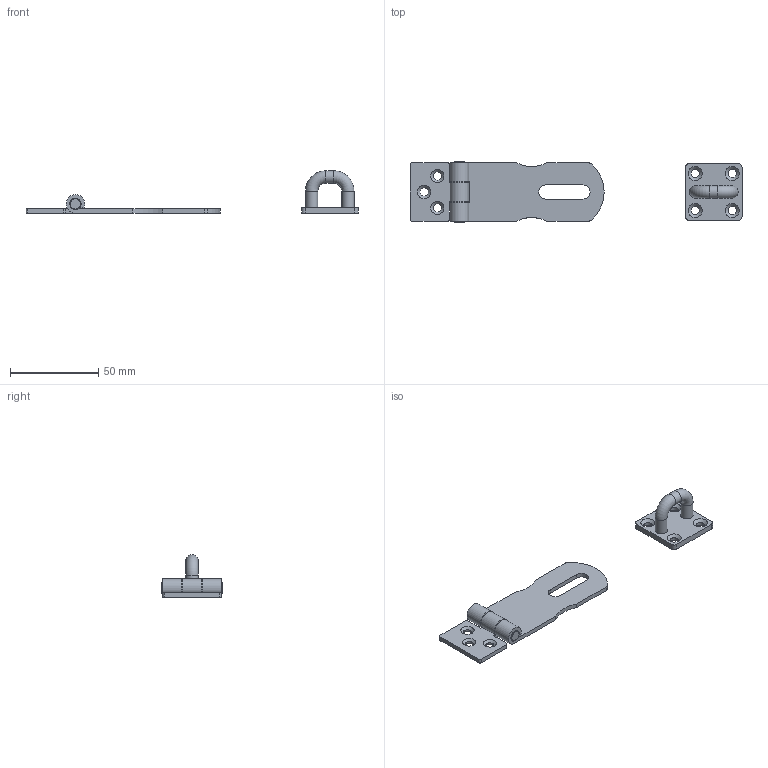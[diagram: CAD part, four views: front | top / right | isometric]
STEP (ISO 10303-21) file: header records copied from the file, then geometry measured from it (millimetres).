
FILE_DESCRIPTION(/* description */ (''),/* implementation_level */ '2;1');
FILE_NAME(/* name */ '\\NAS\db20\GS1-6\DR_GS1-6.stp',/* time_stamp */ '2017-08-31T09:48:00+09:00',/* author */ ('user'),/* organization */ (''),/* preprocessor_version */ 'ST-DEVELOPER v15.6',/* originating_system */ 'Autodesk Inventor 2015',/* authorisation */ '');
FILE_SCHEMA (('AUTOMOTIVE_DESIGN { 1 0 10303 214 3 1 1 }'));
Length unit declared in the file: millimetre
Products named in the file (5): DR_GS1-6-P1; DR_GS1-6-P2; DR_GS1-6-PIN; DR_GS1-6-P3; DR_GS1-6
Bounding box: 188.12 x 34 x 24 mm (x, y, z)
Volume: 14939.7 mm3; surface area: 12987 mm2
Topology: 4 solids, 4 shells, 78 faces, 198 edges, 130 vertices
Faces by surface type: cylinder 34, plane 33, cone 7, torus 4
Full cylindrical faces by diameter (mm): 4.8 x7, 5.5 x1, 6.4 x2, 7 x3
Entity records: 2345 total; most frequent: DIRECTION 418, CARTESIAN_POINT 377, ORIENTED_EDGE 334, EDGE_CURVE 167, AXIS2_PLACEMENT_3D 164, VERTEX_POINT 123, EDGE_LOOP 122, LINE 90
